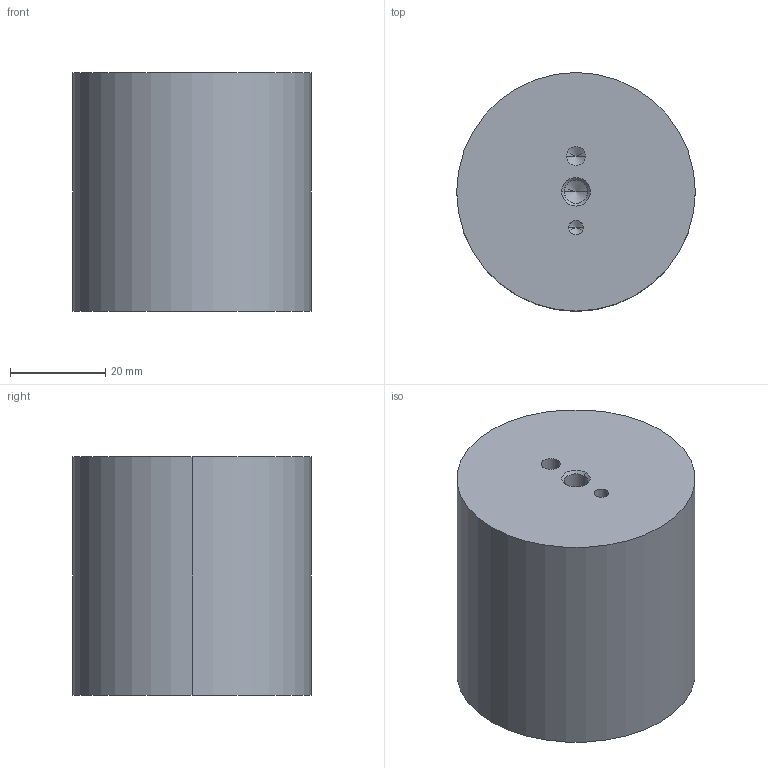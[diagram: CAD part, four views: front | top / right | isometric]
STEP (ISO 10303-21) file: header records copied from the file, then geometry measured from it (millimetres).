
FILE_DESCRIPTION(('STEP AP214'),'1');
FILE_NAME('cctmp_2C1F3BAC-CBD0-4F93-AA11-06D4813C79BE_2019_10_3_15_52_44_173..stp','2019-10-03T13:52:44',('Meusburger Georg GmbH & Co KG'),('CADClick - www.CADClick.com'),'Spatial InterOp 3D',' ','unknown authorization');
FILE_SCHEMA(('AUTOMOTIVE_DESIGN { 1 0 10303 214 1 1 1 1 }'));
Length unit declared in the file: millimetre
Products named in the file (1): V 91552_50_50
Bounding box: 50 x 50 x 50 mm (x, y, z)
Volume: 97663.7 mm3; surface area: 12240.8 mm2
Topology: 1 solids, 1 shells, 21 faces, 46 edges, 25 vertices
Faces by surface type: cylinder 10, cone 8, plane 3
Entity records: 728 total; most frequent: DIRECTION 106, CARTESIAN_POINT 87, ORIENTED_EDGE 80, AXIS2_PLACEMENT_3D 44, EDGE_CURVE 40, EDGE_LOOP 25, VERTEX_POINT 25, STYLED_ITEM 22
